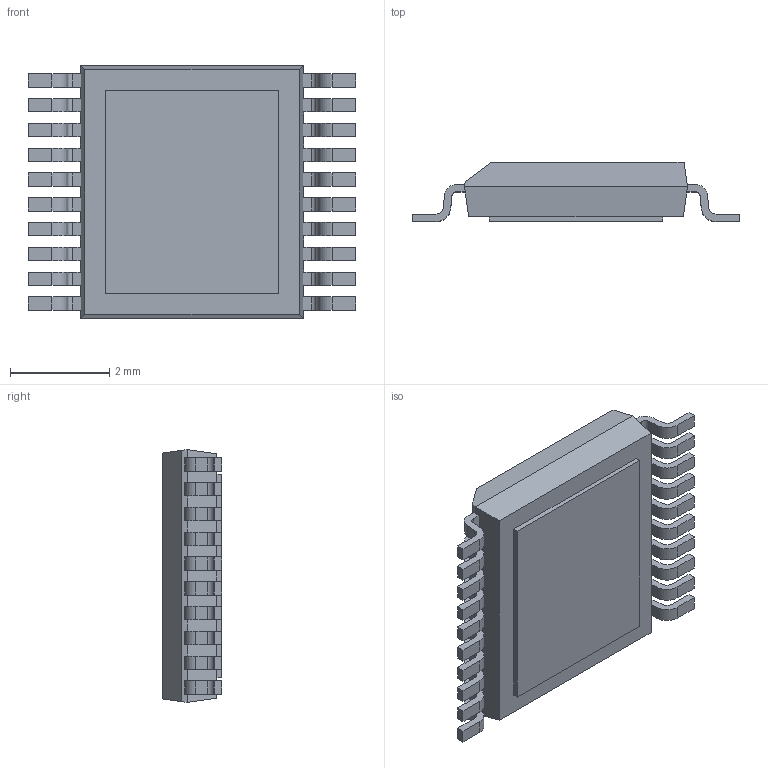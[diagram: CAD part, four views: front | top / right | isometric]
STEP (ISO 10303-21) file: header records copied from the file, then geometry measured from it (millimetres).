
FILE_DESCRIPTION (( 'STEP AP214' ), '1' );
FILE_NAME ('TSSOP50P640X120-20TP_MO-153.BAT.STEP', '2014-10-29T08:29:42', ( 'Tester2' ), ( '' ), 'SwSTEP 2.0', 'SolidWorks 2012', '' );
FILE_SCHEMA (( 'AUTOMOTIVE_DESIGN' ));
Length unit declared in the file: millimetre
Products named in the file (1): TSSOP50P640X120-20TP_MO-153.BAT
Bounding box: 6.6 x 1.2 x 5.1 mm (x, y, z)
Volume: 26.6 mm3; surface area: 89 mm2
Topology: 1 solids, 1 shells, 279 faces, 821 edges, 546 vertices
Faces by surface type: plane 197, cylinder 82
Entity records: 12229 total; most frequent: CARTESIAN_POINT 1647, ORIENTED_EDGE 1642, DIRECTION 1545, EDGE_CURVE 821, VECTOR 657, LINE 657, VERTEX_POINT 546, AXIS2_PLACEMENT_3D 444
